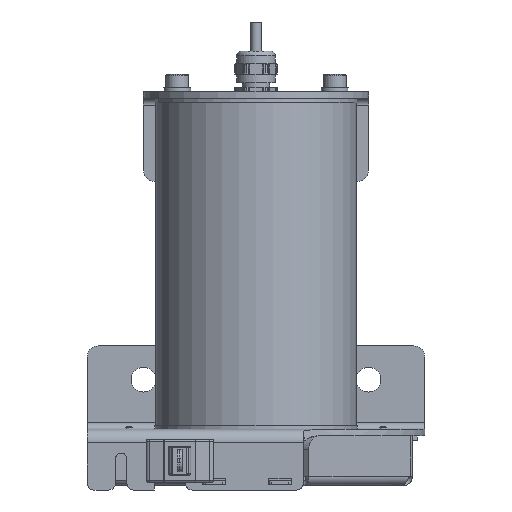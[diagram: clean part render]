
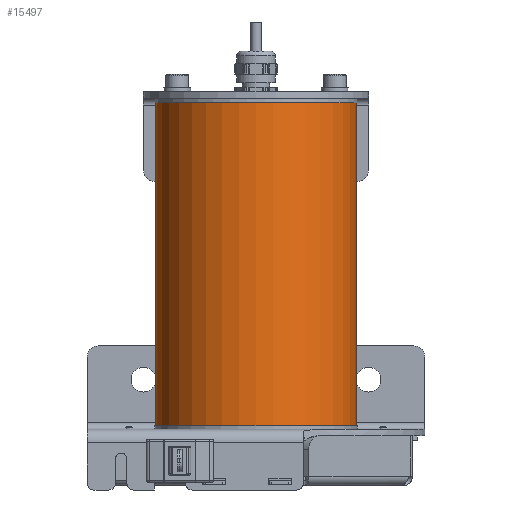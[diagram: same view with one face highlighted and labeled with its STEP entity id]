
A CAD part, left-side view. The second image highlights one B-rep face of the part: STEP entity #15497.
In plain terms, the highlighted cylindrical face has radius 44.45 mm (diameter 88.9 mm), a full revolution.
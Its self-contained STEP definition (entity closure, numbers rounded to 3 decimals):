
#10297=CARTESIAN_POINT('',(44.45,0.,0.0));
#10298=VERTEX_POINT('',#10297);
#10299=CARTESIAN_POINT('',(0.0,0.0,0.0));
#10300=DIRECTION('',(0.0,0.0,-1.0));
#10301=DIRECTION('',(-1.0,0.0,0.0));
#10302=AXIS2_PLACEMENT_3D('',#10299,#10300,#10301);
#10303=CIRCLE('',#10302,44.45);
#10304=EDGE_CURVE('',#10298,#10298,#10303,.T.);
#15238=CARTESIAN_POINT('',(44.45,0.,143.5));
#15239=VERTEX_POINT('',#15238);
#15240=CARTESIAN_POINT('',(0.0,0.0,143.5));
#15241=DIRECTION('',(0.0,0.0,-1.0));
#15242=DIRECTION('',(-1.0,0.0,0.0));
#15243=AXIS2_PLACEMENT_3D('',#15240,#15241,#15242);
#15244=CIRCLE('',#15243,44.45);
#15245=EDGE_CURVE('',#15239,#15239,#15244,.T.);
#15486=CARTESIAN_POINT('',(0.0,0.0,0.0));
#15487=DIRECTION('',(0.0,0.0,1.0));
#15488=DIRECTION('',(-1.0,0.0,0.0));
#15489=AXIS2_PLACEMENT_3D('',#15486,#15487,#15488);
#15490=CYLINDRICAL_SURFACE('',#15489,44.45);
#15491=ORIENTED_EDGE('',*,*,#15245,.T.);
#15492=EDGE_LOOP('',(#15491));
#15493=FACE_OUTER_BOUND('',#15492,.T.);
#15494=ORIENTED_EDGE('',*,*,#10304,.F.);
#15495=EDGE_LOOP('',(#15494));
#15496=FACE_BOUND('',#15495,.T.);
#15497=ADVANCED_FACE('',(#15493,#15496),#15490,.T.);
